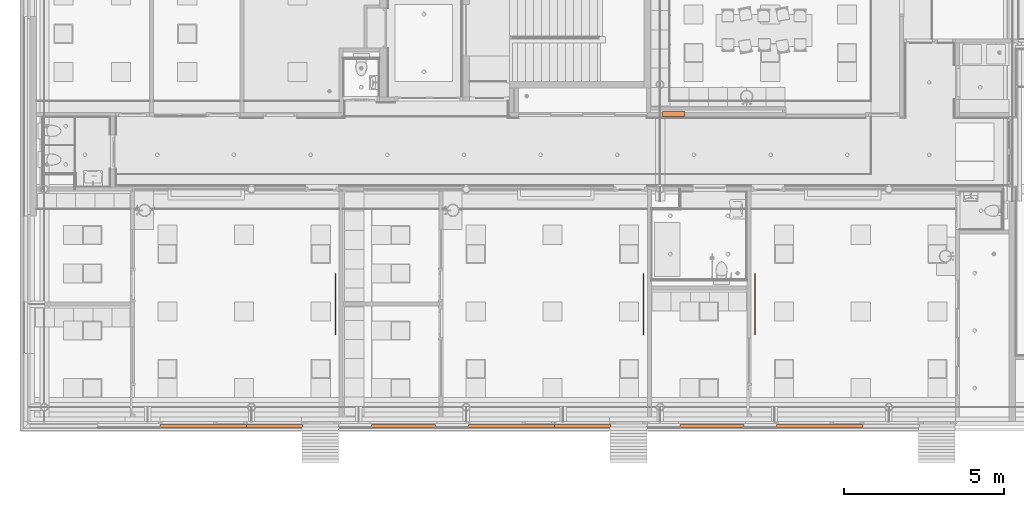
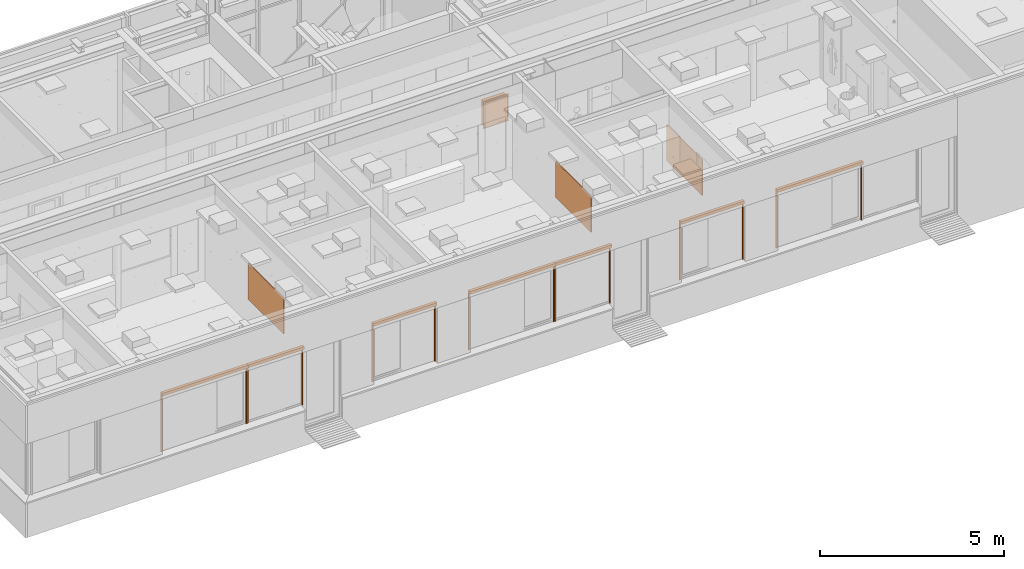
# One storey, part 330 of 347: 11 proxies.
"""IFC2X3 building model written with IfcOpenShell, lengths in millimetres."""

from ifc_helpers import new_model, entity, si_unit, converted_unit, derived_unit, money_unit, direction, frame, origin_with_axes, place, context, subcontext, project, spatial, open_shell, faceted_brep, surface_model, source, transform, mapped, type_object, type_shapes, element, save


model = new_model("IFC2X3")

# Units and contexts
model_context = context("Model", 3, precision=0.01, world=origin_with_axes(), true_north=direction((0.0, 1.0)))
plan_context = context("Plan", 3, precision=0.01, world=origin_with_axes(), true_north=direction((0.0, 1.0)))
body_context = subcontext(model_context, "Body", "Model", "MODEL_VIEW")
ifc_project = project(units=[si_unit("LENGTHUNIT", "METRE", prefix="MILLI"), si_unit("AREAUNIT", "SQUARE_METRE"), si_unit("VOLUMEUNIT", "CUBIC_METRE"), converted_unit("PLANEANGLEUNIT", "DEGREE", entity("IfcPlaneAngleMeasure", 0.0174532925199), si_unit("PLANEANGLEUNIT", "RADIAN"), dimensions=[0, 0, 0, 0, 0, 0, 0]), money_unit("EUR"), converted_unit("TIMEUNIT", "Year", entity("IfcTimeMeasure", 31556926.0), si_unit("TIMEUNIT", "SECOND"), dimensions=[0, 0, 1, 0, 0, 0, 0]), si_unit("MASSUNIT", "GRAM", prefix="KILO"), si_unit("THERMODYNAMICTEMPERATUREUNIT", "DEGREE_CELSIUS"), si_unit("LUMINOUSINTENSITYUNIT", "LUMEN"), si_unit("ENERGYUNIT", "JOULE", prefix="MEGA"), derived_unit("THERMALCONDUCTANCEUNIT", [(si_unit("POWERUNIT", "WATT"), 1), (si_unit("LENGTHUNIT", "METRE"), -1), (si_unit("THERMODYNAMICTEMPERATUREUNIT", "KELVIN"), -1)]), derived_unit("SPECIFICHEATCAPACITYUNIT", [(si_unit("ENERGYUNIT", "JOULE"), 1), (si_unit("MASSUNIT", "GRAM", prefix="KILO"), -1), (si_unit("THERMODYNAMICTEMPERATUREUNIT", "KELVIN"), -1)]), derived_unit("MASSDENSITYUNIT", [(si_unit("MASSUNIT", "GRAM", prefix="KILO"), 1), (si_unit("VOLUMEUNIT", "CUBIC_METRE"), -1)])], contexts=[model_context, plan_context])

# Site, building, storey
site_placement = place(None, origin_with_axes())
site = spatial("IfcSite", under=ifc_project, at=site_placement, Name="Site", CompositionType="ELEMENT")
building_placement = place(site_placement, origin_with_axes())
building = spatial("IfcBuilding", under=site, at=building_placement, Name="Naam gebouw", CompositionType="ELEMENT")
storey_placement = place(building_placement, origin_with_axes())
storey = spatial("IfcBuildingStorey", under=building, at=storey_placement, Name="begane grond", CompositionType="ELEMENT", Elevation=0.0)

# Proxies
building_element_proxy_type_1 = type_object("IfcBuildingElementProxyType", Name="Digitaal bord 25", PredefinedType="NOTDEFINED")
shared_shape_1 = source(origin_with_axes(), body_context, "Body", "SurfaceModel", [
    faceted_brep([(0.0, 0.0, 1000.0), (1930.0, 0.0, 1000.0), (1930.0, -30.0, 1000.0), (0.0, -30.0, 1000.0), (0.0, 0.0, 2185.0), (4.3933982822, 0.0, 2195.60660172), (15.0, 0.0, 2200.0), (1915.0, 0.0, 2200.0), (1925.60660172, 0.0, 2195.60660172), (1930.0, 0.0, 2185.0), (20.0, 0.0, 1025.0), (1910.0, 0.0, 1025.0), (1910.0, 0.0, 2180.0), (20.0, 0.0, 2180.0), (1930.0, -30.0, 2185.0), (1925.60660172, -30.0, 2195.60660172), (1915.0, -30.0, 2200.0), (15.0, -30.0, 2200.0), (4.3933982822, -30.0, 2195.60660172), (0.0, -30.0, 2185.0), (20.0, -30.0, 1025.0), (20.0, -30.0, 2180.0), (1910.0, -30.0, 2180.0), (1910.0, -30.0, 1025.0)], [[[0, 1, 2, 3]], [[0, 4, 5, 6, 7, 8, 9, 1], [10, 11, 12, 13]], [[1, 9, 14, 2]], [[3, 2, 14, 15, 16, 17, 18, 19], [20, 21, 22, 23]], [[4, 0, 3, 19]], [[5, 4, 19, 18]], [[6, 5, 18, 17]], [[7, 6, 17, 16]], [[8, 7, 16, 15]], [[9, 8, 15, 14]], [[11, 10, 20, 23]], [[12, 11, 23, 22]], [[13, 12, 22, 21]], [[10, 13, 21, 20]]]),
    faceted_brep([(20.0, 0.0, 1025.0), (1910.0, 0.0, 1025.0), (1910.0, -29.0, 1025.0), (20.0, -29.0, 1025.0), (20.0, 0.0, 2180.0), (1910.0, 0.0, 2180.0), (1910.0, -29.0, 2180.0), (20.0, -29.0, 2180.0)], [[[0, 1, 2, 3]], [[0, 4, 5, 1]], [[1, 5, 6, 2]], [[3, 2, 6, 7]], [[4, 0, 3, 7]], [[5, 4, 7, 6]]]),
    surface_model("IfcShellBasedSurfaceModel", [(20.0, -30.0, 1025.0), (1910.0, -30.0, 1025.0), (1910.0, -30.0, 2180.0), (20.0, -30.0, 2180.0)], [open_shell([[[0, 1, 2, 3]]])]),
])
for number, where, z_axis, x_axis, name in (
    (1, (14425.0, 9492.5, 0.0), (0.0, 0.0, 1.0), (0.0, -1.0, 0.0), "82_DiGi-bord"),
    (2, (24075.0, 9492.5, 0.0), (0.0, 0.0, 1.0), (0.0, -1.0, 0.0), "82_DiGi-bord"),
):
    element("IfcBuildingElementProxy", number, at=place(storey_placement, frame(where, z_axis=z_axis, x_axis=x_axis)), inside=storey, type_object=building_element_proxy_type_1, Name=name, context=body_context, shape_type="MappedRepresentation", body=[
        mapped(shared_shape_1, transform((0.0, 0.0, 0.0))),
    ])
building_element_proxy_type_2 = type_object("IfcBuildingElementProxyType", Name="Brandslang haspelkast 25", PredefinedType="NOTDEFINED")
shared_shape_2 = source(origin_with_axes(), body_context, "Body", "Brep", [
    faceted_brep([(0.0, 40.0, 0.0), (0.0, 20.0, 0.0), (-780.0, 20.0, 0.0), (-780.0, 40.0, 0.0), (0.0, 40.0, 900.0), (0.0, 20.0, 900.0), (-780.0, 20.0, 900.0), (-60.0, 20.0, 60.0), (-720.0, 20.0, 60.0), (-720.0, 20.0, 840.0), (-60.0, 20.0, 840.0), (-780.0, 40.0, 900.0), (-60.0, 40.0, 60.0), (-60.0, 40.0, 840.0), (-720.0, 40.0, 840.0), (-720.0, 40.0, 60.0)], [[[0, 1, 2, 3]], [[4, 5, 1, 0]], [[1, 5, 6, 2], [7, 8, 9, 10]], [[3, 2, 6, 11]], [[0, 3, 11, 4], [12, 13, 14, 15]], [[11, 6, 5, 4]], [[15, 8, 7, 12]], [[14, 9, 8, 15]], [[13, 10, 9, 14]], [[12, 7, 10, 13]]]),
    faceted_brep([(-40.0, 20.0, 40.0), (-40.0, 0.0, 40.0), (-740.0, 0.0, 40.0), (-740.0, 20.0, 40.0), (-40.0, 20.0, 860.0), (-40.0, 0.0, 860.0), (-740.0, 0.0, 860.0), (-80.0, 0.0, 80.0), (-700.0, 0.0, 80.0), (-700.0, 0.0, 820.0), (-80.0, 0.0, 820.0), (-740.0, 20.0, 860.0), (-80.0, 20.0, 80.0), (-80.0, 20.0, 820.0), (-700.0, 20.0, 820.0), (-700.0, 20.0, 80.0)], [[[0, 1, 2, 3]], [[4, 5, 1, 0]], [[1, 5, 6, 2], [7, 8, 9, 10]], [[3, 2, 6, 11]], [[0, 3, 11, 4], [12, 13, 14, 15]], [[11, 6, 5, 4]], [[15, 8, 7, 12]], [[14, 9, 8, 15]], [[13, 10, 9, 14]], [[12, 7, 10, 13]]]),
    faceted_brep([(-40.0, 180.0, 40.0), (-40.0, 40.0, 40.0), (-740.0, 40.0, 40.0), (-740.0, 180.0, 40.0), (-40.0, 180.0, 860.0), (-40.0, 40.0, 860.0), (-740.0, 40.0, 860.0), (-60.0, 40.0, 60.0), (-720.0, 40.0, 60.0), (-720.0, 40.0, 840.0), (-60.0, 40.0, 840.0), (-740.0, 180.0, 860.0), (-60.0, 180.0, 60.0), (-60.0, 180.0, 840.0), (-720.0, 180.0, 840.0), (-720.0, 180.0, 60.0)], [[[0, 1, 2, 3]], [[4, 5, 1, 0]], [[1, 5, 6, 2], [7, 8, 9, 10]], [[3, 2, 6, 11]], [[0, 3, 11, 4], [12, 13, 14, 15]], [[11, 6, 5, 4]], [[15, 8, 7, 12]], [[14, 9, 8, 15]], [[13, 10, 9, 14]], [[12, 7, 10, 13]]]),
    faceted_brep([(-40.0, 200.0, 40.0), (-40.0, 180.0, 40.0), (-740.0, 180.0, 40.0), (-740.0, 200.0, 40.0), (-40.0, 200.0, 860.0), (-40.0, 180.0, 860.0), (-740.0, 180.0, 860.0), (-740.0, 200.0, 860.0)], [[[0, 1, 2, 3]], [[4, 5, 1, 0]], [[1, 5, 6, 2]], [[3, 2, 6, 7]], [[0, 3, 7, 4]], [[7, 6, 5, 4]]]),
    faceted_brep([(-80.0, 15.0, 80.0), (-80.0, 5.0, 80.0), (-700.0, 5.0, 80.0), (-700.0, 15.0, 80.0), (-80.0, 15.0, 820.0), (-80.0, 5.0, 820.0), (-700.0, 5.0, 820.0), (-700.0, 15.0, 820.0)], [[[0, 1, 2, 3]], [[4, 5, 1, 0]], [[1, 5, 6, 2]], [[3, 2, 6, 7]], [[0, 3, 7, 4]], [[7, 6, 5, 4]]]),
    faceted_brep([(-729.659258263, 0.0, 447.411809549), (-730.0, 0.0, 450.0), (-729.659258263, 0.0, 452.588190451), (-728.660254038, 0.0, 455.0), (-727.071067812, 0.0, 457.071067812), (-725.0, 0.0, 458.660254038), (-722.588190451, 0.0, 459.659258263), (-720.0, 0.0, 460.0), (-717.411809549, 0.0, 459.659258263), (-715.0, 0.0, 458.660254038), (-712.928932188, 0.0, 457.071067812), (-711.339745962, 0.0, 455.0), (-710.340741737, 0.0, 452.588190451), (-710.0, 0.0, 450.0), (-710.340741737, 0.0, 447.411809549), (-711.339745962, 0.0, 445.0), (-712.928932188, 0.0, 442.928932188), (-715.0, 0.0, 441.339745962), (-717.411809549, 0.0, 440.340741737), (-720.0, 0.0, 440.0), (-722.588190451, 0.0, 440.340741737), (-725.0, 0.0, 441.339745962), (-727.071067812, 0.0, 442.928932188), (-728.660254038, 0.0, 445.0), (-729.659258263, -2.0, 447.411809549), (-730.0, -2.0, 450.0), (-729.659258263, -2.0, 452.588190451), (-728.660254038, -2.0, 455.0), (-727.071067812, -2.0, 457.071067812), (-725.0, -2.0, 458.660254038), (-722.588190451, -2.0, 459.659258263), (-720.0, -2.0, 460.0), (-717.411809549, -2.0, 459.659258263), (-715.0, -2.0, 458.660254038), (-712.928932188, -2.0, 457.071067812), (-711.339745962, -2.0, 455.0), (-710.340741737, -2.0, 452.588190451), (-710.0, -2.0, 450.0), (-710.340741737, -2.0, 447.411809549), (-711.339745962, -2.0, 445.0), (-712.928932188, -2.0, 442.928932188), (-715.0, -2.0, 441.339745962), (-717.411809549, -2.0, 440.340741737), (-720.0, -2.0, 440.0), (-722.588190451, -2.0, 440.340741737), (-725.0, -2.0, 441.339745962), (-727.071067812, -2.0, 442.928932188), (-728.660254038, -2.0, 445.0)], [[[0, 1, 2, 3, 4, 5, 6, 7, 8, 9, 10, 11, 12, 13, 14, 15, 16, 17, 18, 19, 20, 21, 22, 23]], [[0, 24, 25, 1]], [[1, 25, 26, 2]], [[2, 26, 27, 3]], [[3, 27, 28, 4]], [[4, 28, 29, 5]], [[5, 29, 30, 6]], [[6, 30, 31, 7]], [[7, 31, 32, 8]], [[8, 32, 33, 9]], [[9, 33, 34, 10]], [[10, 34, 35, 11]], [[11, 35, 36, 12]], [[12, 36, 37, 13]], [[13, 37, 38, 14]], [[14, 38, 39, 15]], [[15, 39, 40, 16]], [[16, 40, 41, 17]], [[17, 41, 42, 18]], [[18, 42, 43, 19]], [[19, 43, 44, 20]], [[20, 44, 45, 21]], [[21, 45, 46, 22]], [[22, 46, 47, 23]], [[23, 47, 24, 0]], [[24, 47, 46, 45, 44, 43, 42, 41, 40, 39, 38, 37, 36, 35, 34, 33, 32, 31, 30, 29, 28, 27, 26, 25]]]),
    faceted_brep([(-39.8977774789, 16.2235428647, 80.0), (-40.0, 17.0, 80.0), (-39.8977774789, 17.7764571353, 80.0), (-39.5980762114, 18.5, 80.0), (-39.1213203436, 19.1213203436, 80.0), (-38.5, 19.5980762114, 80.0), (-37.7764571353, 19.8977774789, 80.0), (-37.0, 20.0, 80.0), (-36.2235428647, 19.8977774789, 80.0), (-35.5, 19.5980762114, 80.0), (-34.8786796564, 19.1213203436, 80.0), (-34.4019237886, 18.5, 80.0), (-34.1022225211, 17.7764571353, 80.0), (-34.0, 17.0, 80.0), (-34.1022225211, 16.2235428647, 80.0), (-34.4019237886, 15.5, 80.0), (-34.8786796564, 14.8786796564, 80.0), (-35.5, 14.4019237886, 80.0), (-36.2235428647, 14.1022225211, 80.0), (-37.0, 14.0, 80.0), (-37.7764571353, 14.1022225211, 80.0), (-38.5, 14.4019237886, 80.0), (-39.1213203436, 14.8786796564, 80.0), (-39.5980762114, 15.5, 80.0), (-39.8977774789, 16.2235428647, 120.0), (-40.0, 17.0, 120.0), (-39.8977774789, 17.7764571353, 120.0), (-39.5980762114, 18.5, 120.0), (-39.1213203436, 19.1213203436, 120.0), (-38.5, 19.5980762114, 120.0), (-37.7764571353, 19.8977774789, 120.0), (-37.0, 20.0, 120.0), (-36.2235428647, 19.8977774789, 120.0), (-35.5, 19.5980762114, 120.0), (-34.8786796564, 19.1213203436, 120.0), (-34.4019237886, 18.5, 120.0), (-34.1022225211, 17.7764571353, 120.0), (-34.0, 17.0, 120.0), (-34.1022225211, 16.2235428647, 120.0), (-34.4019237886, 15.5, 120.0), (-34.8786796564, 14.8786796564, 120.0), (-35.5, 14.4019237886, 120.0), (-36.2235428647, 14.1022225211, 120.0), (-37.0, 14.0, 120.0), (-37.7764571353, 14.1022225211, 120.0), (-38.5, 14.4019237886, 120.0), (-39.1213203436, 14.8786796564, 120.0), (-39.5980762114, 15.5, 120.0)], [[[0, 1, 2, 3, 4, 5, 6, 7, 8, 9, 10, 11, 12, 13, 14, 15, 16, 17, 18, 19, 20, 21, 22, 23]], [[0, 24, 25, 1]], [[1, 25, 26, 2]], [[2, 26, 27, 3]], [[3, 27, 28, 4]], [[4, 28, 29, 5]], [[5, 29, 30, 6]], [[6, 30, 31, 7]], [[7, 31, 32, 8]], [[8, 32, 33, 9]], [[9, 33, 34, 10]], [[10, 34, 35, 11]], [[11, 35, 36, 12]], [[12, 36, 37, 13]], [[13, 37, 38, 14]], [[14, 38, 39, 15]], [[15, 39, 40, 16]], [[16, 40, 41, 17]], [[17, 41, 42, 18]], [[18, 42, 43, 19]], [[19, 43, 44, 20]], [[20, 44, 45, 21]], [[21, 45, 46, 22]], [[22, 46, 47, 23]], [[23, 47, 24, 0]], [[24, 47, 46, 45, 44, 43, 42, 41, 40, 39, 38, 37, 36, 35, 34, 33, 32, 31, 30, 29, 28, 27, 26, 25]]]),
    faceted_brep([(-39.8977774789, 16.2235428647, 780.0), (-40.0, 17.0, 780.0), (-39.8977774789, 17.7764571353, 780.0), (-39.5980762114, 18.5, 780.0), (-39.1213203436, 19.1213203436, 780.0), (-38.5, 19.5980762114, 780.0), (-37.7764571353, 19.8977774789, 780.0), (-37.0, 20.0, 780.0), (-36.2235428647, 19.8977774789, 780.0), (-35.5, 19.5980762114, 780.0), (-34.8786796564, 19.1213203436, 780.0), (-34.4019237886, 18.5, 780.0), (-34.1022225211, 17.7764571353, 780.0), (-34.0, 17.0, 780.0), (-34.1022225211, 16.2235428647, 780.0), (-34.4019237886, 15.5, 780.0), (-34.8786796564, 14.8786796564, 780.0), (-35.5, 14.4019237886, 780.0), (-36.2235428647, 14.1022225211, 780.0), (-37.0, 14.0, 780.0), (-37.7764571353, 14.1022225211, 780.0), (-38.5, 14.4019237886, 780.0), (-39.1213203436, 14.8786796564, 780.0), (-39.5980762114, 15.5, 780.0), (-39.8977774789, 16.2235428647, 820.0), (-40.0, 17.0, 820.0), (-39.8977774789, 17.7764571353, 820.0), (-39.5980762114, 18.5, 820.0), (-39.1213203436, 19.1213203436, 820.0), (-38.5, 19.5980762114, 820.0), (-37.7764571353, 19.8977774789, 820.0), (-37.0, 20.0, 820.0), (-36.2235428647, 19.8977774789, 820.0), (-35.5, 19.5980762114, 820.0), (-34.8786796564, 19.1213203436, 820.0), (-34.4019237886, 18.5, 820.0), (-34.1022225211, 17.7764571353, 820.0), (-34.0, 17.0, 820.0), (-34.1022225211, 16.2235428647, 820.0), (-34.4019237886, 15.5, 820.0), (-34.8786796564, 14.8786796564, 820.0), (-35.5, 14.4019237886, 820.0), (-36.2235428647, 14.1022225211, 820.0), (-37.0, 14.0, 820.0), (-37.7764571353, 14.1022225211, 820.0), (-38.5, 14.4019237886, 820.0), (-39.1213203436, 14.8786796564, 820.0), (-39.5980762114, 15.5, 820.0)], [[[0, 1, 2, 3, 4, 5, 6, 7, 8, 9, 10, 11, 12, 13, 14, 15, 16, 17, 18, 19, 20, 21, 22, 23]], [[0, 24, 25, 1]], [[1, 25, 26, 2]], [[2, 26, 27, 3]], [[3, 27, 28, 4]], [[4, 28, 29, 5]], [[5, 29, 30, 6]], [[6, 30, 31, 7]], [[7, 31, 32, 8]], [[8, 32, 33, 9]], [[9, 33, 34, 10]], [[10, 34, 35, 11]], [[11, 35, 36, 12]], [[12, 36, 37, 13]], [[13, 37, 38, 14]], [[14, 38, 39, 15]], [[15, 39, 40, 16]], [[16, 40, 41, 17]], [[17, 41, 42, 18]], [[18, 42, 43, 19]], [[19, 43, 44, 20]], [[20, 44, 45, 21]], [[21, 45, 46, 22]], [[22, 46, 47, 23]], [[23, 47, 24, 0]], [[24, 47, 46, 45, 44, 43, 42, 41, 40, 39, 38, 37, 36, 35, 34, 33, 32, 31, 30, 29, 28, 27, 26, 25]]]),
])
type_shapes(building_element_proxy_type_2, [shared_shape_2])
proxy_1_placement = place(storey_placement, frame((25390.0, 14360.0, 100.0), z_axis=(0.0, 0.0, 1.0), x_axis=(1.0, 0.0, 0.0)))
element("IfcBuildingElementProxy", 3, at=proxy_1_placement, inside=storey, type_object=building_element_proxy_type_2, Name="65_Object-x", context=body_context, shape_type="MappedRepresentation", body=[
    mapped(shared_shape_2, transform((0.0, 0.0, 0.0))),
])
building_element_proxy_type_3 = type_object("IfcBuildingElementProxyType", Name="Screen 25 KM", PredefinedType="NOTDEFINED")
shared_shape_3 = source(origin_with_axes(), body_context, "Body", "SurfaceModel", [
    faceted_brep([(0.0, 0.0, 0.0), (0.0, -28.0, 0.0), (0.0, -28.0, 1885.0), (0.0, 0.0, 1885.0), (38.0, 0.0, 0.0), (38.0, -4.0, 0.0), (35.0, -4.0, 0.0), (35.0, -3.0, 0.0), (3.0, -3.0, 0.0), (3.0, -25.0, 0.0), (35.0, -25.0, 0.0), (35.0, -24.0, 0.0), (38.0, -24.0, 0.0), (38.0, -28.0, 0.0), (38.0, -28.0, 1885.0), (38.0, -24.0, 1885.0), (35.0, -24.0, 1885.0), (35.0, -25.0, 1885.0), (3.0, -25.0, 1885.0), (3.0, -3.0, 1885.0), (35.0, -3.0, 1885.0), (35.0, -4.0, 1885.0), (38.0, -4.0, 1885.0), (38.0, 0.0, 1885.0)], [[[0, 1, 2, 3]], [[0, 4, 5, 6, 7, 8, 9, 10, 11, 12, 13, 1]], [[1, 13, 14, 2]], [[3, 2, 14, 15, 16, 17, 18, 19, 20, 21, 22, 23]], [[4, 0, 3, 23]], [[5, 4, 23, 22]], [[6, 5, 22, 21]], [[7, 6, 21, 20]], [[8, 7, 20, 19]], [[9, 8, 19, 18]], [[10, 9, 18, 17]], [[11, 10, 17, 16]], [[12, 11, 16, 15]], [[13, 12, 15, 14]]]),
    faceted_brep([(2700.0, 0.0, 0.0), (2700.0, 0.0, 1885.0), (2700.0, -28.0, 1885.0), (2700.0, -28.0, 0.0), (2662.0, 0.0, 0.0), (2662.0, 0.0, 1885.0), (2662.0, -4.0, 1885.0), (2665.0, -4.0, 1885.0), (2665.0, -3.0, 1885.0), (2697.0, -3.0, 1885.0), (2697.0, -25.0, 1885.0), (2665.0, -25.0, 1885.0), (2665.0, -24.0, 1885.0), (2662.0, -24.0, 1885.0), (2662.0, -28.0, 1885.0), (2662.0, -28.0, 0.0), (2662.0, -24.0, 0.0), (2665.0, -24.0, 0.0), (2665.0, -25.0, 0.0), (2697.0, -25.0, 0.0), (2697.0, -3.0, 0.0), (2665.0, -3.0, 0.0), (2665.0, -4.0, 0.0), (2662.0, -4.0, 0.0)], [[[0, 1, 2, 3]], [[4, 5, 1, 0]], [[1, 5, 6, 7, 8, 9, 10, 11, 12, 13, 14, 2]], [[3, 2, 14, 15]], [[0, 3, 15, 16, 17, 18, 19, 20, 21, 22, 23, 4]], [[23, 6, 5, 4]], [[22, 7, 6, 23]], [[21, 8, 7, 22]], [[20, 9, 8, 21]], [[19, 10, 9, 20]], [[18, 11, 10, 19]], [[17, 12, 11, 18]], [[16, 13, 12, 17]], [[15, 14, 13, 16]]]),
    surface_model("IfcShellBasedSurfaceModel", [(0.0, 0.0, 1980.0), (0.0, 0.0, 1885.0), (0.0, -95.0, 1885.0), (0.0, -95.0, 1980.0)], [open_shell([[[0, 1, 2, 3]]])]),
    surface_model("IfcShellBasedSurfaceModel", [(0.01, 0.0, 1980.0), (0.00999999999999, -95.0, 1980.0), (2699.99, -95.0, 1980.0), (2699.99, 0.0, 1980.0), (0.01, 0.0, 1888.0), (0.01, -6.0, 1888.0), (0.01, -6.0, 1891.0), (0.01, -3.0, 1891.0), (0.01, -3.0, 1977.0), (0.00999999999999, -92.0, 1977.0), (0.01, -92.0, 1888.0), (0.01, -28.0, 1888.0), (0.01, -28.0, 1882.0), (0.01, -31.0, 1882.0), (0.01, -31.0, 1885.0), (0.01, -95.0, 1885.0), (2699.99, -95.0, 1885.0), (2699.99, -31.0, 1885.0), (2699.99, -31.0, 1882.0), (2699.99, -28.0, 1882.0), (2699.99, -28.0, 1888.0), (2699.99, -92.0, 1888.0), (2699.99, -92.0, 1977.0), (2699.99, -3.0, 1977.0), (2699.99, -3.0, 1891.0), (2699.99, -6.0, 1891.0), (2699.99, -6.0, 1888.0), (2699.99, 0.0, 1888.0)], [open_shell([[[0, 1, 2, 3]], [[0, 4, 5, 6, 7, 8, 9, 10, 11, 12, 13, 14, 15, 1]], [[1, 15, 16, 2]], [[3, 2, 16, 17, 18, 19, 20, 21, 22, 23, 24, 25, 26, 27]], [[4, 0, 3, 27]], [[13, 12, 19, 18]], [[14, 13, 18, 17]], [[15, 14, 17, 16]]])]),
    surface_model("IfcShellBasedSurfaceModel", [(2699.99, 0.0, 1980.0), (2699.99, 0.0, 1885.0), (2699.99, -95.0, 1885.0), (2699.99, -95.0, 1980.0)], [open_shell([[[0, 1, 2, 3]]])]),
])
for number, where, z_axis, x_axis, name in (
    (4, (28225.0, 4767.00002055, 720.0), (0.0, 0.0, 1.0), (1.0, 0.0, 0.0), "_78 garderobe"),
    (5, (18575.0, 4767.00002055, 720.0), (0.0, 0.0, 1.0), (1.0, 0.0, 0.0), "_78 garderobe"),
    (6, (8925.0, 4767.00002055, 720.0), (0.0, 0.0, 1.0), (1.0, 0.0, 0.0), "_78 garderobe"),
):
    element("IfcBuildingElementProxy", number, at=place(storey_placement, frame(where, z_axis=z_axis, x_axis=x_axis)), inside=storey, type_object=building_element_proxy_type_3, Name=name, context=body_context, shape_type="MappedRepresentation", body=[
        mapped(shared_shape_3, transform((0.0, 0.0, 0.0))),
    ])
shared_shape_4 = source(origin_with_axes(), body_context, "Body", "SurfaceModel", [
    faceted_brep([(0.0, 0.0, 0.0), (0.0, -28.0, 0.0), (0.0, -28.0, 1885.0), (0.0, 0.0, 1885.0), (38.0, 0.0, 0.0), (38.0, -4.0, 0.0), (35.0, -4.0, 0.0), (35.0, -3.0, 0.0), (3.0, -3.0, 0.0), (3.0, -25.0, 0.0), (35.0, -25.0, 0.0), (35.0, -24.0, 0.0), (38.0, -24.0, 0.0), (38.0, -28.0, 0.0), (38.0, -28.0, 1885.0), (38.0, -24.0, 1885.0), (35.0, -24.0, 1885.0), (35.0, -25.0, 1885.0), (3.0, -25.0, 1885.0), (3.0, -3.0, 1885.0), (35.0, -3.0, 1885.0), (35.0, -4.0, 1885.0), (38.0, -4.0, 1885.0), (38.0, 0.0, 1885.0)], [[[0, 1, 2, 3]], [[0, 4, 5, 6, 7, 8, 9, 10, 11, 12, 13, 1]], [[1, 13, 14, 2]], [[3, 2, 14, 15, 16, 17, 18, 19, 20, 21, 22, 23]], [[4, 0, 3, 23]], [[5, 4, 23, 22]], [[6, 5, 22, 21]], [[7, 6, 21, 20]], [[8, 7, 20, 19]], [[9, 8, 19, 18]], [[10, 9, 18, 17]], [[11, 10, 17, 16]], [[12, 11, 16, 15]], [[13, 12, 15, 14]]]),
    faceted_brep([(2000.0, 0.0, 0.0), (2000.0, 0.0, 1885.0), (2000.0, -28.0, 1885.0), (2000.0, -28.0, 0.0), (1962.0, 0.0, 0.0), (1962.0, 0.0, 1885.0), (1962.0, -4.0, 1885.0), (1965.0, -4.0, 1885.0), (1965.0, -3.0, 1885.0), (1997.0, -3.0, 1885.0), (1997.0, -25.0, 1885.0), (1965.0, -25.0, 1885.0), (1965.0, -24.0, 1885.0), (1962.0, -24.0, 1885.0), (1962.0, -28.0, 1885.0), (1962.0, -28.0, 0.0), (1962.0, -24.0, 0.0), (1965.0, -24.0, 0.0), (1965.0, -25.0, 0.0), (1997.0, -25.0, 0.0), (1997.0, -3.0, 0.0), (1965.0, -3.0, 0.0), (1965.0, -4.0, 0.0), (1962.0, -4.0, 0.0)], [[[0, 1, 2, 3]], [[4, 5, 1, 0]], [[1, 5, 6, 7, 8, 9, 10, 11, 12, 13, 14, 2]], [[3, 2, 14, 15]], [[0, 3, 15, 16, 17, 18, 19, 20, 21, 22, 23, 4]], [[23, 6, 5, 4]], [[22, 7, 6, 23]], [[21, 8, 7, 22]], [[20, 9, 8, 21]], [[19, 10, 9, 20]], [[18, 11, 10, 19]], [[17, 12, 11, 18]], [[16, 13, 12, 17]], [[15, 14, 13, 16]]]),
    surface_model("IfcShellBasedSurfaceModel", [(0.0, 0.0, 1980.0), (0.0, 0.0, 1885.0), (0.0, -95.0, 1885.0), (0.0, -95.0, 1980.0)], [open_shell([[[0, 1, 2, 3]]])]),
    surface_model("IfcShellBasedSurfaceModel", [(0.01, 0.0, 1980.0), (0.00999999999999, -95.0, 1980.0), (1999.99, -95.0, 1980.0), (1999.99, 0.0, 1980.0), (0.01, 0.0, 1888.0), (0.01, -6.0, 1888.0), (0.01, -6.0, 1891.0), (0.01, -3.0, 1891.0), (0.01, -3.0, 1977.0), (0.00999999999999, -92.0, 1977.0), (0.01, -92.0, 1888.0), (0.01, -28.0, 1888.0), (0.01, -28.0, 1882.0), (0.01, -31.0, 1882.0), (0.01, -31.0, 1885.0), (0.01, -95.0, 1885.0), (1999.99, -95.0, 1885.0), (1999.99, -31.0, 1885.0), (1999.99, -31.0, 1882.0), (1999.99, -28.0, 1882.0), (1999.99, -28.0, 1888.0), (1999.99, -92.0, 1888.0), (1999.99, -92.0, 1977.0), (1999.99, -3.0, 1977.0), (1999.99, -3.0, 1891.0), (1999.99, -6.0, 1891.0), (1999.99, -6.0, 1888.0), (1999.99, 0.0, 1888.0)], [open_shell([[[0, 1, 2, 3]], [[0, 4, 5, 6, 7, 8, 9, 10, 11, 12, 13, 14, 15, 1]], [[1, 15, 16, 2]], [[3, 2, 16, 17, 18, 19, 20, 21, 22, 23, 24, 25, 26, 27]], [[4, 0, 3, 27]], [[13, 12, 19, 18]], [[14, 13, 18, 17]], [[15, 14, 17, 16]]])]),
    surface_model("IfcShellBasedSurfaceModel", [(1999.99, 0.0, 1980.0), (1999.99, 0.0, 1885.0), (1999.99, -95.0, 1885.0), (1999.99, -95.0, 1980.0)], [open_shell([[[0, 1, 2, 3]]])]),
])
for number, where, z_axis, x_axis, name in (
    (7, (25200.0013568, 4767.00002055, 720.0), (0.0, 0.0, 1.0), (1.0, 0.0, 0.0), "_78 garderobe"),
    (8, (15550.0013568, 4767.00002055, 720.0), (0.0, 0.0, 1.0), (1.0, 0.0, 0.0), "_78 garderobe"),
):
    element("IfcBuildingElementProxy", number, at=place(storey_placement, frame(where, z_axis=z_axis, x_axis=x_axis)), inside=storey, type_object=building_element_proxy_type_3, Name=name, context=body_context, shape_type="MappedRepresentation", body=[
        mapped(shared_shape_4, transform((0.0, 0.0, 0.0))),
    ])
shared_shape_5 = source(origin_with_axes(), body_context, "Body", "SurfaceModel", [
    faceted_brep([(0.0, 0.0, 0.0), (0.0, 0.0, 1885.0), (0.0, -28.0, 1885.0), (0.0, -28.0, 0.0), (-38.0, 0.0, 0.0), (-38.0, 0.0, 1885.0), (-38.0, -4.0, 1885.0), (-35.0, -4.0, 1885.0), (-35.0, -3.0, 1885.0), (-3.0, -3.0, 1885.0), (-3.0, -25.0, 1885.0), (-35.0, -25.0, 1885.0), (-35.0, -24.0, 1885.0), (-38.0, -24.0, 1885.0), (-38.0, -28.0, 1885.0), (-38.0, -28.0, 0.0), (-38.0, -24.0, 0.0), (-35.0, -24.0, 0.0), (-35.0, -25.0, 0.0), (-3.0, -25.0, 0.0), (-3.0, -3.0, 0.0), (-35.0, -3.0, 0.0), (-35.0, -4.0, 0.0), (-38.0, -4.0, 0.0)], [[[0, 1, 2, 3]], [[4, 5, 1, 0]], [[1, 5, 6, 7, 8, 9, 10, 11, 12, 13, 14, 2]], [[3, 2, 14, 15]], [[0, 3, 15, 16, 17, 18, 19, 20, 21, 22, 23, 4]], [[23, 6, 5, 4]], [[22, 7, 6, 23]], [[21, 8, 7, 22]], [[20, 9, 8, 21]], [[19, 10, 9, 20]], [[18, 11, 10, 19]], [[17, 12, 11, 18]], [[16, 13, 12, 17]], [[15, 14, 13, 16]]]),
    faceted_brep([(-1757.0, 0.0, 0.0), (-1757.0, -28.0, 0.0), (-1757.0, -28.0, 1885.0), (-1757.0, 0.0, 1885.0), (-1719.0, 0.0, 0.0), (-1719.0, -4.0, 0.0), (-1722.0, -4.0, 0.0), (-1722.0, -3.0, 0.0), (-1754.0, -3.0, 0.0), (-1754.0, -25.0, 0.0), (-1722.0, -25.0, 0.0), (-1722.0, -24.0, 0.0), (-1719.0, -24.0, 0.0), (-1719.0, -28.0, 0.0), (-1719.0, -28.0, 1885.0), (-1719.0, -24.0, 1885.0), (-1722.0, -24.0, 1885.0), (-1722.0, -25.0, 1885.0), (-1754.0, -25.0, 1885.0), (-1754.0, -3.0, 1885.0), (-1722.0, -3.0, 1885.0), (-1722.0, -4.0, 1885.0), (-1719.0, -4.0, 1885.0), (-1719.0, 0.0, 1885.0)], [[[0, 1, 2, 3]], [[0, 4, 5, 6, 7, 8, 9, 10, 11, 12, 13, 1]], [[1, 13, 14, 2]], [[3, 2, 14, 15, 16, 17, 18, 19, 20, 21, 22, 23]], [[4, 0, 3, 23]], [[5, 4, 23, 22]], [[6, 5, 22, 21]], [[7, 6, 21, 20]], [[8, 7, 20, 19]], [[9, 8, 19, 18]], [[10, 9, 18, 17]], [[11, 10, 17, 16]], [[12, 11, 16, 15]], [[13, 12, 15, 14]]]),
    surface_model("IfcShellBasedSurfaceModel", [(0.0, 0.0, 1980.0), (0.0, -95.0, 1980.0), (0.0, -95.0, 1885.0), (0.0, 0.0, 1885.0)], [open_shell([[[0, 1, 2, 3]]])]),
    surface_model("IfcShellBasedSurfaceModel", [(-0.01, 0.0, 1980.0), (-1756.99, 0.0, 1980.0), (-1756.99, -95.0, 1980.0), (-0.00999999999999, -95.0, 1980.0), (-0.01, 0.0, 1888.0), (-1756.99, 0.0, 1888.0), (-1756.99, -6.0, 1888.0), (-1756.99, -6.0, 1891.0), (-1756.99, -3.0, 1891.0), (-1756.99, -3.0, 1977.0), (-1756.99, -92.0, 1977.0), (-1756.99, -92.0, 1888.0), (-1756.99, -28.0, 1888.0), (-1756.99, -28.0, 1882.0), (-1756.99, -31.0, 1882.0), (-1756.99, -31.0, 1885.0), (-1756.99, -95.0, 1885.0), (-0.01, -95.0, 1885.0), (-0.01, -31.0, 1885.0), (-0.01, -31.0, 1882.0), (-0.01, -28.0, 1882.0), (-0.01, -28.0, 1888.0), (-0.01, -92.0, 1888.0), (-0.00999999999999, -92.0, 1977.0), (-0.01, -3.0, 1977.0), (-0.01, -3.0, 1891.0), (-0.01, -6.0, 1891.0), (-0.01, -6.0, 1888.0)], [open_shell([[[0, 1, 2, 3]], [[4, 5, 1, 0]], [[1, 5, 6, 7, 8, 9, 10, 11, 12, 13, 14, 15, 16, 2]], [[3, 2, 16, 17]], [[0, 3, 17, 18, 19, 20, 21, 22, 23, 24, 25, 26, 27, 4]], [[19, 14, 13, 20]], [[18, 15, 14, 19]], [[17, 16, 15, 18]]])]),
    surface_model("IfcShellBasedSurfaceModel", [(-1756.99, 0.0, 1980.0), (-1756.99, -95.0, 1980.0), (-1756.99, -95.0, 1885.0), (-1756.99, 0.0, 1885.0)], [open_shell([[[0, 1, 2, 3]]])]),
])
type_shapes(building_element_proxy_type_3, [shared_shape_3, shared_shape_4, shared_shape_5])
for number, where, z_axis, x_axis, name in (
    (9, (23032.0, 4767.00002055, 720.0), (0.0, 0.0, 1.0), (1.0, 0.0, 0.0), "_78 garderobe"),
    (10, (13382.0, 4767.00002055, 720.0), (0.0, 0.0, 1.0), (1.0, 0.0, 0.0), "_78 garderobe"),
):
    element("IfcBuildingElementProxy", number, at=place(storey_placement, frame(where, z_axis=z_axis, x_axis=x_axis)), inside=storey, type_object=building_element_proxy_type_3, Name=name, context=body_context, shape_type="MappedRepresentation", body=[
        mapped(shared_shape_5, transform((0.0, 0.0, 0.0))),
    ])
shared_shape_6 = source(origin_with_axes(), body_context, "Body", "SurfaceModel", [
    faceted_brep([(0.0, 0.0, 1000.0), (0.0, -30.0, 1000.0), (-1930.0, -30.0, 1000.0), (-1930.0, 0.0, 1000.0), (0.0, 0.0, 2185.0), (0.0, -30.0, 2185.0), (-4.3933982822, -30.0, 2195.60660172), (-15.0, -30.0, 2200.0), (-1915.0, -30.0, 2200.0), (-1925.60660172, -30.0, 2195.60660172), (-1930.0, -30.0, 2185.0), (-20.0, -30.0, 1025.0), (-1910.0, -30.0, 1025.0), (-1910.0, -30.0, 2180.0), (-20.0, -30.0, 2180.0), (-1930.0, 0.0, 2185.0), (-1925.60660172, 0.0, 2195.60660172), (-1915.0, 0.0, 2200.0), (-15.0, 0.0, 2200.0), (-4.3933982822, 0.0, 2195.60660172), (-20.0, 0.0, 1025.0), (-20.0, 0.0, 2180.0), (-1910.0, 0.0, 2180.0), (-1910.0, 0.0, 1025.0)], [[[0, 1, 2, 3]], [[4, 5, 1, 0]], [[1, 5, 6, 7, 8, 9, 10, 2], [11, 12, 13, 14]], [[3, 2, 10, 15]], [[0, 3, 15, 16, 17, 18, 19, 4], [20, 21, 22, 23]], [[19, 6, 5, 4]], [[18, 7, 6, 19]], [[17, 8, 7, 18]], [[16, 9, 8, 17]], [[15, 10, 9, 16]], [[23, 12, 11, 20]], [[22, 13, 12, 23]], [[21, 14, 13, 22]], [[20, 11, 14, 21]]]),
    faceted_brep([(-20.0, 0.0, 1025.0), (-20.0, -29.0, 1025.0), (-1910.0, -29.0, 1025.0), (-1910.0, 0.0, 1025.0), (-20.0, 0.0, 2180.0), (-20.0, -29.0, 2180.0), (-1910.0, -29.0, 2180.0), (-1910.0, 0.0, 2180.0)], [[[0, 1, 2, 3]], [[4, 5, 1, 0]], [[1, 5, 6, 2]], [[3, 2, 6, 7]], [[0, 3, 7, 4]], [[7, 6, 5, 4]]]),
    surface_model("IfcShellBasedSurfaceModel", [(-20.0, -30.0, 1025.0), (-20.0, -30.0, 2180.0), (-1910.0, -30.0, 2180.0), (-1910.0, -30.0, 1025.0)], [open_shell([[[0, 1, 2, 3]]])]),
])
type_shapes(building_element_proxy_type_1, [shared_shape_1, shared_shape_6])
proxy_2_placement = place(storey_placement, frame((27525.0, 9492.5, 0.0), z_axis=(0.0, 0.0, 1.0), x_axis=(0.0, 1.0, 0.0)))
element("IfcBuildingElementProxy", 11, at=proxy_2_placement, inside=storey, type_object=building_element_proxy_type_1, Name="82_DiGi-bord", context=body_context, shape_type="MappedRepresentation", body=[
    mapped(shared_shape_6, transform((0.0, 0.0, 0.0))),
])

save(model, "model.ifc")
